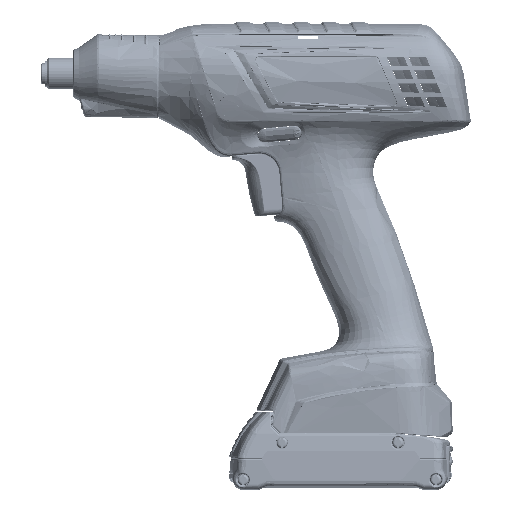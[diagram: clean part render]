
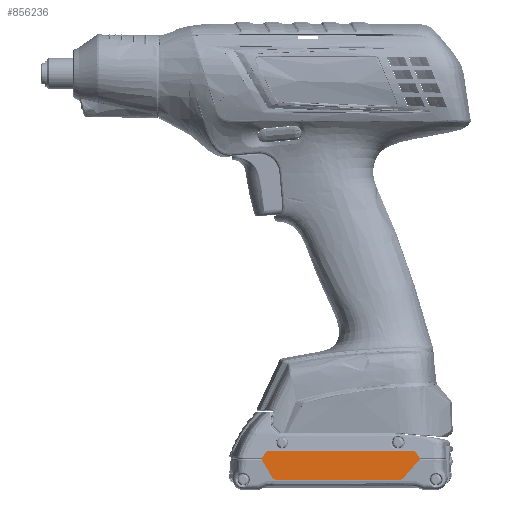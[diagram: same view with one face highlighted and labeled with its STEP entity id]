
A CAD part, top view. The second image highlights one B-rep face of the part: STEP entity #856236.
In plain terms, the highlighted planar face has unit normal (0, 0.035, 0.999) as drawn and (0.999, 0, -0.035) by its records, which use the part's own axes.
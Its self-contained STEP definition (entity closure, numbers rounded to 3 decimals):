
#596863=DIRECTION('',(0.,1.,0.));
#596864=VECTOR('',#596863,0.227);
#596865=CARTESIAN_POINT('',(36.281,-33.127,31.9));
#596866=LINE('18302',#596865,#596864);
#596953=DIRECTION('',(0.,-1.,0.));
#596954=VECTOR('',#596953,0.289);
#596955=CARTESIAN_POINT('',(36.281,47.339,31.9));
#596956=LINE('18298',#596955,#596954);
#638907=DIRECTION('',(0.,1.,0.));
#638908=VECTOR('',#638907,72.771);
#638909=CARTESIAN_POINT('',(36.139,-29.368,27.9));
#638910=LINE('18938',#638909,#638908);
#639103=CARTESIAN_POINT('',(36.173,-31.083,
28.871));
#639104=CARTESIAN_POINT('',(36.167,-30.986,
28.709));
#639105=CARTESIAN_POINT('',(36.158,-30.762,
28.437));
#639106=CARTESIAN_POINT('',(36.147,-30.363,
28.142));
#639107=CARTESIAN_POINT('',(36.141,-29.905,
27.952));
#639108=CARTESIAN_POINT('',(36.139,-29.556,27.9));
#639109=CARTESIAN_POINT('',(36.139,-29.368,27.9));
#639114=CARTESIAN_POINT('',(36.65,-22.888,42.3));
#639115=CARTESIAN_POINT('',(36.65,-23.039,42.3));
#639116=CARTESIAN_POINT('',(36.649,-23.327,
42.266));
#639117=CARTESIAN_POINT('',(36.644,-23.72,
42.134));
#639118=CARTESIAN_POINT('',(36.637,-24.079,
41.925));
#639119=CARTESIAN_POINT('',(36.63,-24.293,
41.731));
#639120=CARTESIAN_POINT('',(36.626,-24.393,
41.617));
#639125=CARTESIAN_POINT('',(36.614,41.623,41.3));
#639126=CARTESIAN_POINT('',(36.62,41.527,
41.467));
#639127=CARTESIAN_POINT('',(36.63,41.303,
41.746));
#639128=CARTESIAN_POINT('',(36.641,40.901,
42.05));
#639129=CARTESIAN_POINT('',(36.648,40.437,
42.246));
#639130=CARTESIAN_POINT('',(36.65,40.083,42.3));
#639131=CARTESIAN_POINT('',(36.65,39.891,42.3));
#639136=CARTESIAN_POINT('',(36.139,43.403,27.9));
#639137=CARTESIAN_POINT('',(36.139,43.586,27.9));
#639138=CARTESIAN_POINT('',(36.14,43.925,
27.949));
#639139=CARTESIAN_POINT('',(36.147,44.374,
28.13));
#639140=CARTESIAN_POINT('',(36.157,44.768,
28.411));
#639141=CARTESIAN_POINT('',(36.166,44.991,
28.671));
#639142=CARTESIAN_POINT('',(36.172,45.09,
28.825));
#726648=DIRECTION('',(-0.03,0.514,-0.857));
#726649=VECTOR('',#726648,3.534);
#726650=CARTESIAN_POINT('',(36.281,-32.9,31.9));
#726651=LINE('18329',#726650,#726649);
#726673=DIRECTION('',(0.03,0.537,0.843));
#726674=VECTOR('',#726673,3.648);
#726675=CARTESIAN_POINT('',(36.172,45.09,
28.825));
#726676=LINE('18330',#726675,#726674);
#726680=CARTESIAN_POINT('',(36.287,-32.751,
32.071));
#726681=CARTESIAN_POINT('',(36.285,-32.8,
32.014));
#726682=CARTESIAN_POINT('',(36.282,-32.915,
31.932));
#726683=CARTESIAN_POINT('',(36.281,-33.051,31.9));
#726684=CARTESIAN_POINT('',(36.281,-33.127,31.9));
#729084=CARTESIAN_POINT('',(36.281,47.339,31.9));
#729085=CARTESIAN_POINT('',(36.281,47.242,31.9));
#729086=CARTESIAN_POINT('',(36.283,47.079,
31.951));
#729087=CARTESIAN_POINT('',(36.287,46.954,
32.067));
#729088=CARTESIAN_POINT('',(36.29,46.906,32.15));
#729100=DIRECTION('',(-0.031,0.5,-0.866));
#729101=VECTOR('',#729100,10.571);
#729102=CARTESIAN_POINT('',(36.614,41.623,41.3));
#729103=LINE('18310',#729102,#729101);
#729143=DIRECTION('',(0.,-1.,0.));
#729144=VECTOR('',#729143,62.779);
#729145=CARTESIAN_POINT('',(36.65,39.891,42.3));
#729146=LINE('18290',#729145,#729144);
#729179=DIRECTION('',(-0.027,-0.658,
-0.752));
#729180=VECTOR('',#729179,12.693);
#729181=CARTESIAN_POINT('',(36.626,-24.393,
41.617));
#729182=LINE('18309',#729181,#729180);
#787352=VERTEX_POINT('',#639114);
#787353=VERTEX_POINT('',#639120);
#787358=VERTEX_POINT('',#639125);
#787359=VERTEX_POINT('',#639131);
#787366=CARTESIAN_POINT('',(36.281,47.339,31.9));
#787367=VERTEX_POINT('',#787366);
#787368=CARTESIAN_POINT('',(36.29,46.906,32.15));
#787369=VERTEX_POINT('',#787368);
#787370=CARTESIAN_POINT('',(36.281,47.05,31.9));
#787371=VERTEX_POINT('',#787370);
#787373=CARTESIAN_POINT('',(36.281,-33.127,31.9));
#787375=VERTEX_POINT('',#787373);
#787377=CARTESIAN_POINT('',(36.287,-32.751,
32.071));
#787378=VERTEX_POINT('',#787377);
#787379=CARTESIAN_POINT('',(36.281,-32.9,31.9));
#787380=VERTEX_POINT('',#787379);
#787387=CARTESIAN_POINT('',(36.173,-31.083,
28.871));
#787389=VERTEX_POINT('',#787387);
#787391=CARTESIAN_POINT('',(36.172,45.09,
28.825));
#787393=VERTEX_POINT('',#787391);
#787839=CARTESIAN_POINT('',(36.139,-29.368,27.9));
#787840=CARTESIAN_POINT('',(36.139,43.403,27.9));
#787841=VERTEX_POINT('',#787839);
#787842=VERTEX_POINT('',#787840);
#856204=CARTESIAN_POINT('',(36.65,53.6,42.3));
#856205=DIRECTION('',(-0.999,0.,0.035));
#856206=DIRECTION('',(-0.035,0.,-0.999));
#856207=AXIS2_PLACEMENT_3D('',#856204,#856205,#856206);
#856208=PLANE('17414',#856207);
#856209=ORIENTED_EDGE('18938',*,*,#856107,.F.);
#856211=ORIENTED_EDGE('18994',*,*,#856210,.F.);
#856213=ORIENTED_EDGE('18329',*,*,#856212,.F.);
#856214=ORIENTED_EDGE('18302',*,*,#815841,.F.);
#856216=ORIENTED_EDGE('18312',*,*,#856215,.F.);
#856218=ORIENTED_EDGE('18309',*,*,#856217,.F.);
#856220=ORIENTED_EDGE('18283',*,*,#856219,.F.);
#856222=ORIENTED_EDGE('18290',*,*,#856221,.F.);
#856224=ORIENTED_EDGE('18286',*,*,#856223,.F.);
#856226=ORIENTED_EDGE('18310',*,*,#856225,.T.);
#856228=ORIENTED_EDGE('18311',*,*,#856227,.F.);
#856229=ORIENTED_EDGE('18298',*,*,#815915,.T.);
#856231=ORIENTED_EDGE('18330',*,*,#856230,.F.);
#856233=ORIENTED_EDGE('18997',*,*,#856232,.F.);
#856234=EDGE_LOOP('17414',(#856209,#856211,#856213,#856214,#856216,#856218,
#856220,#856222,#856224,#856226,#856228,#856229,#856231,#856233));
#856235=FACE_OUTER_BOUND('17414',#856234,.F.);
#856236=ADVANCED_FACE('17414',(#856235),#856208,.F.);
#639110=B_SPLINE_CURVE_WITH_KNOTS('18994',3,(#639103,#639104,#639105,#639106,
#639107,#639108,#639109),.UNSPECIFIED.,.F.,.F.,(4,1,1,1,4),(0.,0.25,0.5,
0.75,1.),.UNSPECIFIED.);
#639121=B_SPLINE_CURVE_WITH_KNOTS('18283',3,(#639114,#639115,#639116,#639117,
#639118,#639119,#639120),.UNSPECIFIED.,.F.,.F.,(4,1,1,1,4),(0.,0.25,0.5,
0.75,1.),.UNSPECIFIED.);
#639132=B_SPLINE_CURVE_WITH_KNOTS('18286',3,(#639125,#639126,#639127,#639128,
#639129,#639130,#639131),.UNSPECIFIED.,.F.,.F.,(4,1,1,1,4),(0.,0.25,0.5,
0.75,1.),.UNSPECIFIED.);
#639143=B_SPLINE_CURVE_WITH_KNOTS('18997',3,(#639136,#639137,#639138,#639139,
#639140,#639141,#639142),.UNSPECIFIED.,.F.,.F.,(4,1,1,1,4),(0.,0.25,0.5,
0.75,1.),.UNSPECIFIED.);
#726685=B_SPLINE_CURVE_WITH_KNOTS('18312',3,(#726680,#726681,#726682,#726683,
#726684),.UNSPECIFIED.,.F.,.F.,(4,1,4),(0.,0.5,1.),.UNSPECIFIED.);
#729089=B_SPLINE_CURVE_WITH_KNOTS('18311',3,(#729084,#729085,#729086,#729087,
#729088),.UNSPECIFIED.,.F.,.F.,(4,1,4),(0.,0.5,1.),.UNSPECIFIED.);
#815841=EDGE_CURVE('18302',#787375,#787380,#596866,.T.);
#815915=EDGE_CURVE('18298',#787367,#787371,#596956,.T.);
#856107=EDGE_CURVE('18938',#787841,#787842,#638910,.T.);
#856210=EDGE_CURVE('18994',#787389,#787841,#639110,.T.);
#856212=EDGE_CURVE('18329',#787380,#787389,#726651,.T.);
#856215=EDGE_CURVE('18312',#787378,#787375,#726685,.T.);
#856217=EDGE_CURVE('18309',#787353,#787378,#729182,.T.);
#856219=EDGE_CURVE('18283',#787352,#787353,#639121,.T.);
#856221=EDGE_CURVE('18290',#787359,#787352,#729146,.T.);
#856223=EDGE_CURVE('18286',#787358,#787359,#639132,.T.);
#856225=EDGE_CURVE('18310',#787358,#787369,#729103,.T.);
#856227=EDGE_CURVE('18311',#787367,#787369,#729089,.T.);
#856230=EDGE_CURVE('18330',#787393,#787371,#726676,.T.);
#856232=EDGE_CURVE('18997',#787842,#787393,#639143,.T.);
